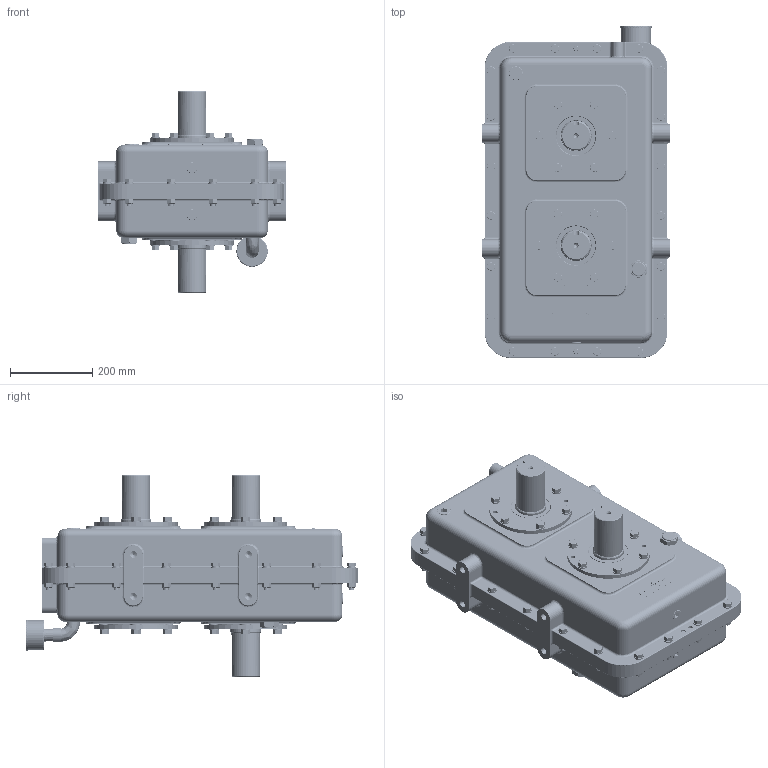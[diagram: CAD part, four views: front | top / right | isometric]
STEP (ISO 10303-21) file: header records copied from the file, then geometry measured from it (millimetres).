
FILE_DESCRIPTION (( 'STEP AP214' ), '1' );
FILE_NAME ('D227A100001.STEP', '2017-10-10T20:15:41', ( 'MikeMihajlovic' ), ( 'Microsoft' ), 'SwSTEP 2.0', 'SolidWorks 2017', '' );
FILE_SCHEMA (( 'AUTOMOTIVE_DESIGN' ));
Length unit declared in the file: inch
Products named in the file (24): DWL_50X1_25_3; DS90081A106_11; SHCS_25-20X_50_6; NP266409-1_10; D204013_2; PPSKG1_00-11_5_7; D227001; AVBF-16_7; STEL1_00NPT90_7; D227A100001; SG1_00NPT-01_2; HHCSZ_50-13X1_25_4; HHCSZ_50-13X2_25_3; HNZ_50-13_5; LWZ_50_6; PPSKM_75-14_5; OS2_938X3_751-2_2; D227002; D227010; D227003; D227006; SHK22405; SHK22407; SHK22420
Assembly tree (157 placements, depth 2):
  D227A100001
    D227001  x2
    D204013_2  x4
    SHCS_25-20X_50_6  x8
    DWL_50X1_25_3  x2
    SHK22420  x2
    SHK22407  x6
    SHK22405  x6
    D227006  x3
    D227003
    D227010
    D227002
    OS2_938X3_751-2_2  x3
    PPSKM_75-14_5  x2
    LWZ_50_6  x44
    HNZ_50-13_5  x20
    HHCSZ_50-13X2_25_3  x20
    HHCSZ_50-13X1_25_4  x24
    SG1_00NPT-01_2  x2
    STEL1_00NPT90_7
    AVBF-16_7
    PPSKG1_00-11_5_7
    NP266409-1_10
    DS90081A106_11  x2
Bounding box: 457.2 x 807.21 x 491.24 mm (x, y, z)
Volume: 250863.9 mm3; surface area: 3540285.1 mm2
Topology: 96 solids, 275 shells, 5222 faces, 12992 edges, 8308 vertices
Faces by surface type: cylinder 2327, plane 2102, cone 443, bspline 342, torus 8
Entity records: 77237 total; most frequent: CARTESIAN_POINT 24242, DIRECTION 10799, ORIENTED_EDGE 10533, EDGE_CURVE 5352, AXIS2_PLACEMENT_3D 3744, VERTEX_POINT 3484, LINE 3311, VECTOR 3311
